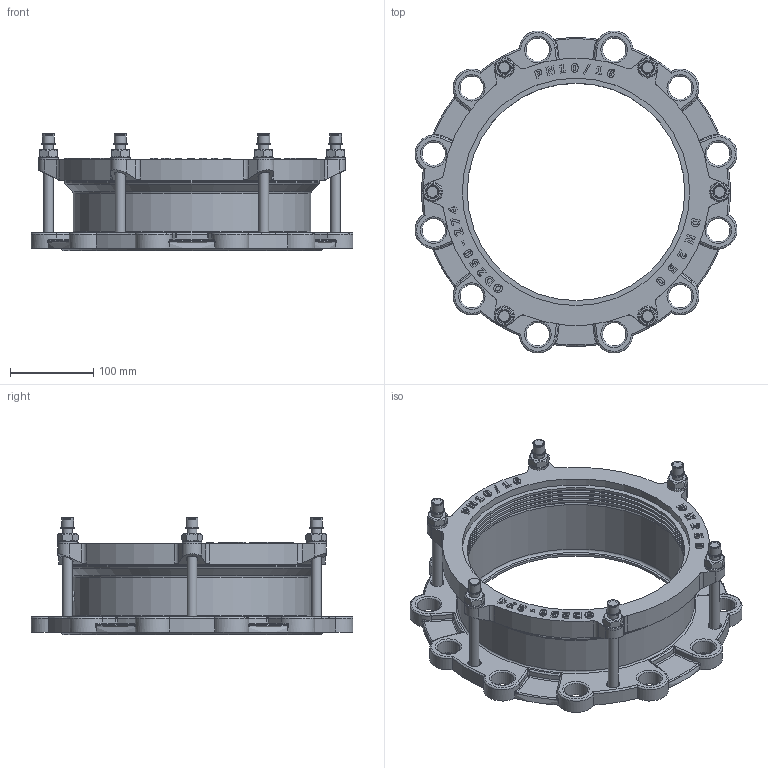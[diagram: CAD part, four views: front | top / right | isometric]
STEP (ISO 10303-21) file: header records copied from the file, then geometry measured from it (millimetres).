
FILE_DESCRIPTION(('STEP AP203'), '1');
FILE_NAME('Ôëàíöåâûé àäàïòåð', '', ('UNSPECIFIED'), ('UNSPECIFIED'), 'C3D Converter', 'C3D Toolkit', '');
FILE_SCHEMA(('CONFIG_CONTROL_DESIGN'));
Length unit declared in the file: millimetre
Assembly tree (27 placements, depth 2):
  (unnamed)
    (unnamed)
    (unnamed)  x6
    (unnamed)  x6
    (unnamed)  x6
    (unnamed)  x6
    (unnamed)
    (unnamed)
Bounding box: 387.9 x 387.9 x 141.2 mm (x, y, z)
Volume: 2030473.7 mm3; surface area: 554791.7 mm2
Topology: 27 solids, 27 shells, 1222 faces, 3031 edges, 1852 vertices
Faces by surface type: plane 403, extrusion 298, cylinder 290, torus 101, bspline 48, cone 46, sphere 36
Full cylindrical faces by diameter (mm): 12 x18, 13 x6, 13.478 x1, 14 x12, 14.4 x6, 16.8 x6, 24 x6, 28 x12, 262 x5, 268 x3, 274 x2, 280 x1, 286 x2, 307 x1, 310 x2
Entity records: 45137 total; most frequent: CARTESIAN_POINT 17489, ORIENTED_EDGE 4928, DIRECTION 4036, EDGE_CURVE 2464, VERTEX_POINT 1592, VECTOR 1358, AXIS2_PLACEMENT_3D 1339, EDGE_LOOP 1226
